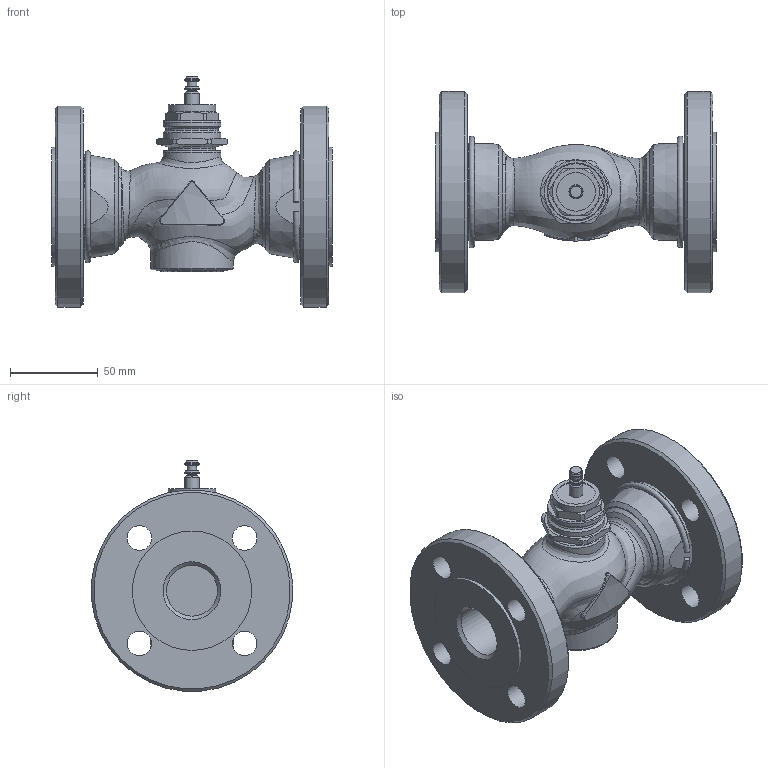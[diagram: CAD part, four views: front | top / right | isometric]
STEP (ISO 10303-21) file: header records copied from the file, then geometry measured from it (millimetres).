
FILE_DESCRIPTION(/* description */ (''),/* implementation_level */ '2;1');
FILE_NAME(/* name */ 'rv111s_dn25_2_F.stp',/* time_stamp */ '2012-02-27T14:30:20+01:00',/* author */ ('KLIMES'),/* organization */ ('LDM'),/* preprocessor_version */ 'ST-DEVELOPER v11',/* originating_system */ 'SIEMENS PLM Software NX 7.0',/* authorisation */ '');
FILE_SCHEMA (('CONFIG_CONTROL_DESIGN'));
Length unit declared in the file: millimetre
Products named in the file (1): klimEE991wf3
Bounding box: 160 x 114.56 x 131.33 mm (x, y, z)
Volume: 588986.7 mm3; surface area: 101514.2 mm2
Topology: 5 solids, 5 shells, 196 faces, 442 edges, 276 vertices
Faces by surface type: cylinder 57, plane 53, cone 46, torus 20, bspline 20
Full cylindrical faces by diameter (mm): 5.3 x1, 5.5 x1, 8 x3, 14 x8, 22 x1, 26.5 x1, 27 x1, 29 x2, 33 x3, 40 x1, 44.845 x2, 47 x1, 47.8 x2, 48 x2, 68 x2, 115 x2
Entity records: 10611 total; most frequent: CARTESIAN_POINT 6771, DIRECTION 764, ORIENTED_EDGE 656, AXIS2_PLACEMENT_3D 354, EDGE_CURVE 328, EDGE_LOOP 318, VERTEX_POINT 244, FACE_BOUND 226
